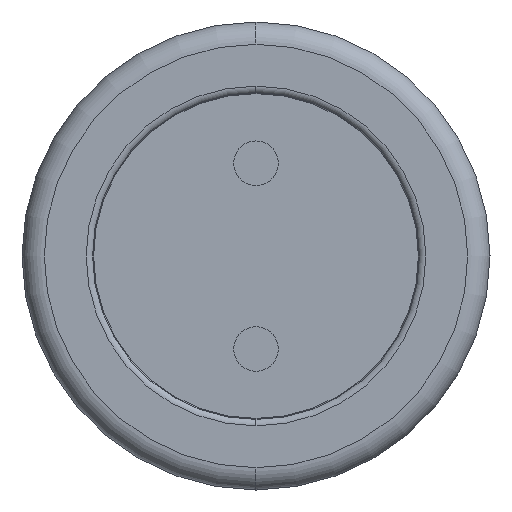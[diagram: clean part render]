
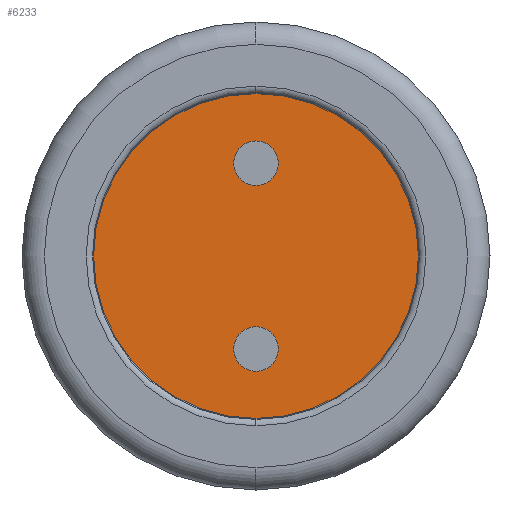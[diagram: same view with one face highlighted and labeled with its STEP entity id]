
A CAD part, left-side view. The second image highlights one B-rep face of the part: STEP entity #6233.
In plain terms, the highlighted planar face has unit normal (-1, 0, 0).
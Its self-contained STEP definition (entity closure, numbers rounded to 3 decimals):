
#40=CARTESIAN_POINT('',(-17.8,0.,0.002));
#41=DIRECTION('',(-1.,0.,0.));
#42=DIRECTION('',(0.,0.,-1.));
#43=AXIS2_PLACEMENT_3D('',#40,#41,#42);
#45=CARTESIAN_POINT('',(-17.8,0.,0.002));
#46=DIRECTION('',(1.,0.,0.));
#47=DIRECTION('',(0.,0.,-1.));
#48=AXIS2_PLACEMENT_3D('',#45,#46,#47);
#50=CARTESIAN_POINT('',(-17.8,0.,-1.25));
#51=DIRECTION('',(-1.,0.,0.));
#52=DIRECTION('',(0.,0.,-1.));
#53=AXIS2_PLACEMENT_3D('',#50,#51,#52);
#55=CARTESIAN_POINT('',(-17.8,0.,-1.25));
#56=DIRECTION('',(-1.,0.,0.));
#57=DIRECTION('',(0.,0.,1.));
#58=AXIS2_PLACEMENT_3D('',#55,#56,#57);
#60=CARTESIAN_POINT('',(-17.8,0.,1.25));
#61=DIRECTION('',(-1.,0.,0.));
#62=DIRECTION('',(0.,0.,-1.));
#63=AXIS2_PLACEMENT_3D('',#60,#61,#62);
#65=CARTESIAN_POINT('',(-17.8,0.,1.25));
#66=DIRECTION('',(-1.,0.,0.));
#67=DIRECTION('',(0.,0.,1.));
#68=AXIS2_PLACEMENT_3D('',#65,#66,#67);
#4686=CARTESIAN_POINT('',(-17.8,0.,-2.198));
#4687=VERTEX_POINT('',#4686);
#4688=CARTESIAN_POINT('',(-17.8,0.,2.202));
#4689=VERTEX_POINT('',#4688);
#4694=CARTESIAN_POINT('',(-17.8,0.,-1.55));
#4695=CARTESIAN_POINT('',(-17.8,0.,-0.95));
#4696=VERTEX_POINT('',#4694);
#4697=VERTEX_POINT('',#4695);
#4698=CARTESIAN_POINT('',(-17.8,0.,0.95));
#4699=CARTESIAN_POINT('',(-17.8,0.,1.55));
#4700=VERTEX_POINT('',#4698);
#4701=VERTEX_POINT('',#4699);
#6212=CARTESIAN_POINT('',(-17.8,0.,0.002));
#6213=DIRECTION('',(1.,0.,0.));
#6214=DIRECTION('',(0.,0.,1.));
#6215=AXIS2_PLACEMENT_3D('',#6212,#6213,#6214);
#6216=PLANE('',#6215);
#6217=ORIENTED_EDGE('',*,*,#6191,.F.);
#6218=ORIENTED_EDGE('',*,*,#6207,.T.);
#6219=EDGE_LOOP('',(#6217,#6218));
#6220=FACE_OUTER_BOUND('',#6219,.F.);
#6222=ORIENTED_EDGE('',*,*,#6221,.T.);
#6224=ORIENTED_EDGE('',*,*,#6223,.T.);
#6225=EDGE_LOOP('',(#6222,#6224));
#6226=FACE_BOUND('',#6225,.F.);
#6228=ORIENTED_EDGE('',*,*,#6227,.T.);
#6230=ORIENTED_EDGE('',*,*,#6229,.T.);
#6231=EDGE_LOOP('',(#6228,#6230));
#6232=FACE_BOUND('',#6231,.F.);
#6233=ADVANCED_FACE('',(#6220,#6226,#6232),#6216,.F.);
#44=CIRCLE('',#43,2.2);
#49=CIRCLE('',#48,2.2);
#54=CIRCLE('',#53,0.3);
#59=CIRCLE('',#58,0.3);
#64=CIRCLE('',#63,0.3);
#69=CIRCLE('',#68,0.3);
#6191=EDGE_CURVE('',#4687,#4689,#44,.T.);
#6207=EDGE_CURVE('',#4687,#4689,#49,.T.);
#6221=EDGE_CURVE('',#4696,#4697,#54,.T.);
#6223=EDGE_CURVE('',#4697,#4696,#59,.T.);
#6227=EDGE_CURVE('',#4700,#4701,#64,.T.);
#6229=EDGE_CURVE('',#4701,#4700,#69,.T.);
